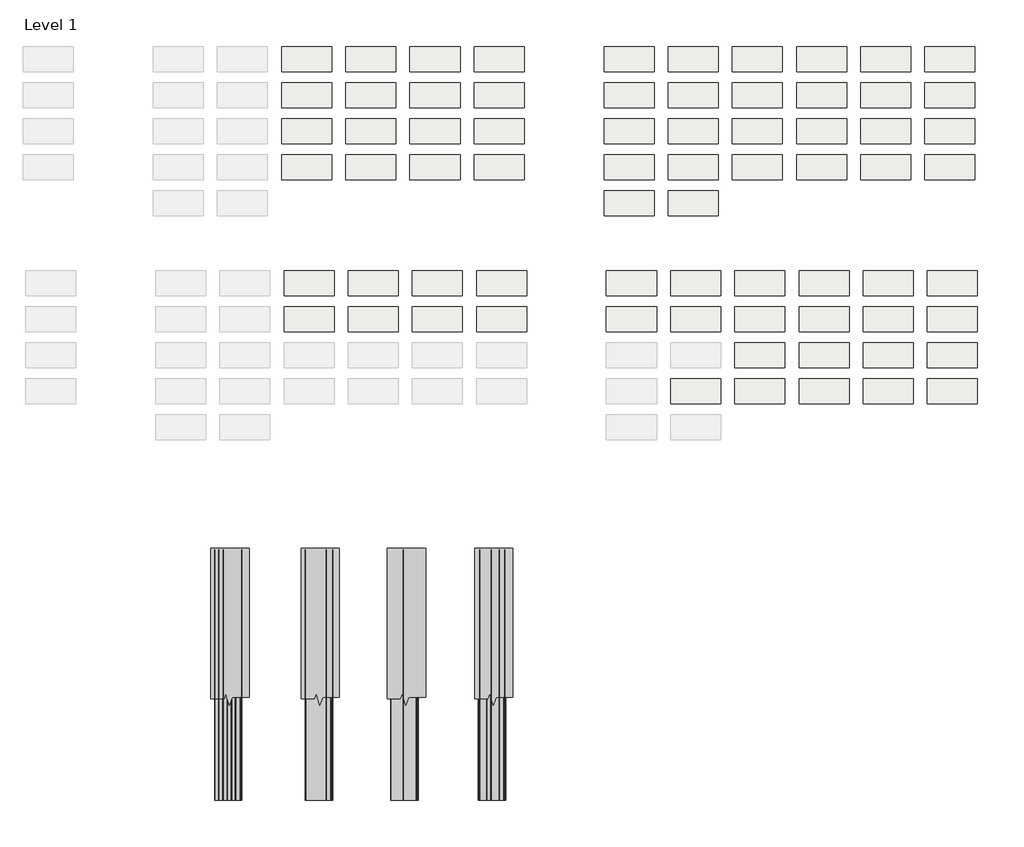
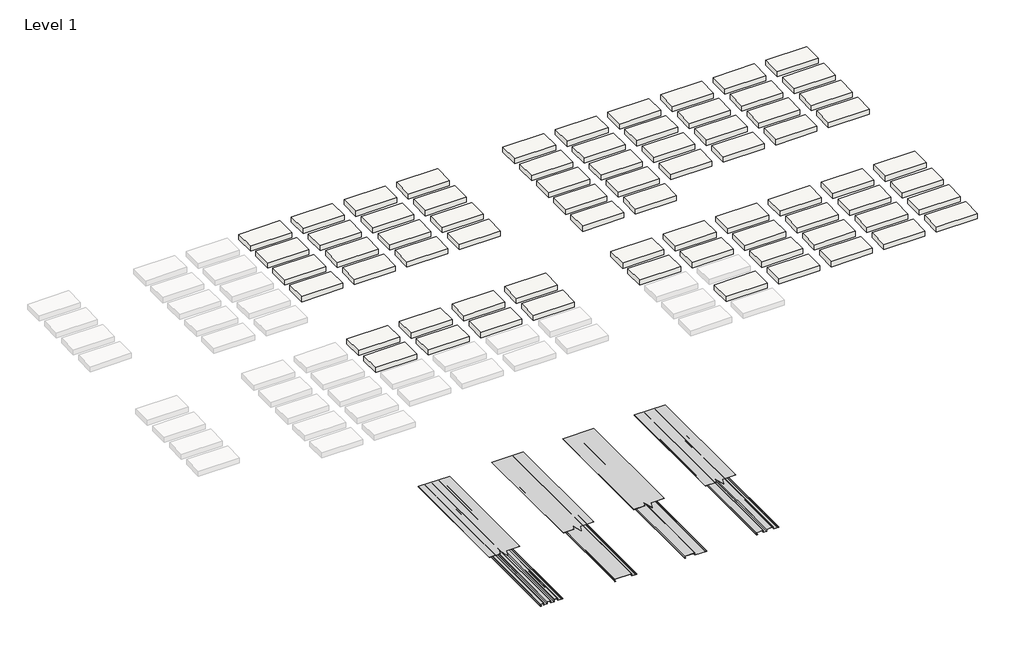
# One storey, part 3 of 3: 71 slabs, 8 proxies.
"""IFC4 building model written with IfcOpenShell, lengths in millimetres."""

from ifc_helpers import new_model, si_unit, frame, origin, place, context, project, spatial, polyline, outline, extrude, transform, mapped, element, save
from components import generic_models_ee5c945a, generic_models_c5291c93, generic_models_d0faf110, generic_models_5fbaab43, section_mask_section_mask_0c550b42

model = new_model("IFC4")

# Units and contexts
model_context = context("Model", 3, world=origin())
ifc_project = project(units=[si_unit("LENGTHUNIT", "METRE", prefix="MILLI")], contexts=[model_context])

# Site, building, storey
site = spatial("IfcSite", under=ifc_project)
building = spatial("IfcBuilding", under=site)
storey = spatial("IfcBuildingStorey", under=building, Name="Level 1", Elevation=0.0)

# Proxies
placement = place(None, origin())
generic_models_shape = generic_models_ee5c945a(model_context)
element("IfcBuildingElementProxy", 1, Name="Flex-Series_1.2FX20-12c_Panel_AEP_Span : 12\" Flex Series 1.2FX20-12c - 20GA", ObjectType="Flex-Series_1.2FX20-12c_Panel_AEP_Span : 12\" Flex Series 1.2FX20-12c - 20GA", at=placement, inside=storey, context=model_context, shape_type="MappedRepresentation", body=[
    mapped(generic_models_shape, transform((8796.572764, 1390.8314445, 0.0), x_axis=(1.0, 0.0, 0.0), y_axis=(0.0, 1.0, 0.0), z_axis=(0.0, 0.0, 1.0))),
])
generic_models_2_shape = generic_models_c5291c93(model_context)
element("IfcBuildingElementProxy", 2, Name="Flex-Series_1.2FX10-12c_Panel_AEP_Span : 12\" Flex Series 1.2FX10-12c - 20GA", ObjectType="Flex-Series_1.2FX10-12c_Panel_AEP_Span : 12\" Flex Series 1.2FX10-12c - 20GA", at=placement, inside=storey, context=model_context, shape_type="MappedRepresentation", body=[
    mapped(generic_models_2_shape, transform((7729.772764, 1390.8314445, 0.0), x_axis=(1.0, 0.0, 0.0), y_axis=(0.0, 1.0, 0.0), z_axis=(0.0, 0.0, 1.0))),
])
generic_models_3_shape = generic_models_d0faf110(model_context)
element("IfcBuildingElementProxy", 3, Name="Flex-Series_1.2FX30-12c_Panel_AEP_Span : 12\" Flex Series 1.2FX30-12c - 20GA", ObjectType="Flex-Series_1.2FX30-12c_Panel_AEP_Span : 12\" Flex Series 1.2FX30-12c - 20GA", at=placement, inside=storey, context=model_context, shape_type="MappedRepresentation", body=[
    mapped(generic_models_3_shape, transform((9863.372764, 1390.8314445, 0.0), x_axis=(1.0, 0.0, 0.0), y_axis=(0.0, 1.0, 0.0), z_axis=(0.0, 0.0, 1.0))),
])
generic_models_4_shape = generic_models_5fbaab43(model_context)
element("IfcBuildingElementProxy", 4, Name="Flex-Series_1.2FX40-12c_Panel_AEP_Span : 12\" Flex Series 1.2FX40-12c - 20GA", ObjectType="Flex-Series_1.2FX40-12c_Panel_AEP_Span : 12\" Flex Series 1.2FX40-12c - 20GA", at=placement, inside=storey, context=model_context, shape_type="MappedRepresentation", body=[
    mapped(generic_models_4_shape, transform((10930.172764, 1390.8314445, 0.0), x_axis=(1.0, 0.0, 0.0), y_axis=(0.0, 1.0, 0.0), z_axis=(0.0, 0.0, 1.0))),
])
section_mask_section_mask_shape = section_mask_section_mask_0c550b42(model_context)
element("IfcBuildingElementProxy", 5, Name="Section Mask : Section Mask", ObjectType="Section Mask : Section Mask", at=placement, inside=storey, context=model_context, shape_type="MappedRepresentation", body=[
    mapped(section_mask_section_mask_shape, transform((-344.1665381, -1308.0504409, -11.1125), x_axis=(1.0, 0.0, 0.0), y_axis=(0.0, 1.0, 0.0), z_axis=(0.0, 0.0, 1.0))),
])
element("IfcBuildingElementProxy", 6, Name="Section Mask1 : Section Mask", ObjectType="Section Mask1 : Section Mask", at=placement, inside=storey, context=model_context, shape_type="MappedRepresentation", body=[
    mapped(section_mask_section_mask_shape, transform((753.2413884, -1308.0504409, -11.1125), x_axis=(1.0, 0.0, 0.0), y_axis=(0.0, 1.0, 0.0), z_axis=(0.0, 0.0, 1.0))),
])
element("IfcBuildingElementProxy", 7, Name="Section Mask2 : Section Mask", ObjectType="Section Mask2 : Section Mask", at=placement, inside=storey, context=model_context, shape_type="MappedRepresentation", body=[
    mapped(section_mask_section_mask_shape, transform((1802.2157814, -1308.0504409, -11.1125), x_axis=(1.0, 0.0, 0.0), y_axis=(0.0, 1.0, 0.0), z_axis=(0.0, 0.0, 1.0))),
])
element("IfcBuildingElementProxy", 8, Name="Section Mask3 : Section Mask", ObjectType="Section Mask3 : Section Mask", at=placement, inside=storey, context=model_context, shape_type="MappedRepresentation", body=[
    mapped(section_mask_section_mask_shape, transform((2865.3756625, -1308.0504409, -11.1125), x_axis=(1.0, 0.0, 0.0), y_axis=(0.0, 1.0, 0.0), z_axis=(0.0, 0.0, 1.0))),
])

# Slabs
element("IfcSlab", 9, ObjectType="AEP Span Color Sample", at=placement, inside=storey, context=model_context, shape_type="SweptSolid", body=[
    extrude(outline(polyline([(8989.0339225, 7212.0976846), (8379.4339225, 7212.0976846), (8379.4339225, 7516.8976846), (8989.0339225, 7516.8976846), (8989.0339225, 7212.0976846)])), frame((0.0, 0.0, -79.375), z_axis=(0.0, 0.0, 1.0), x_axis=(1.0, 0.0, 0.0)), (0.0, 0.0, 1.0), 79.375),
])
element("IfcSlab", 10, ObjectType="AEP Span Color Sample", at=placement, inside=storey, context=model_context, shape_type="SweptSolid", body=[
    extrude(outline(polyline([(9770.0839225, 7212.0976846), (9160.4839225, 7212.0976846), (9160.4839225, 7516.8976846), (9770.0839225, 7516.8976846), (9770.0839225, 7212.0976846)])), frame((0.0, 0.0, -79.375), z_axis=(0.0, 0.0, 1.0), x_axis=(1.0, 0.0, 0.0)), (0.0, 0.0, 1.0), 79.375),
])
element("IfcSlab", 11, ObjectType="AEP Span Color Sample", at=placement, inside=storey, context=model_context, shape_type="SweptSolid", body=[
    extrude(outline(polyline([(10551.1339225, 7212.0976846), (9941.5339225, 7212.0976846), (9941.5339225, 7516.8976846), (10551.1339225, 7516.8976846), (10551.1339225, 7212.0976846)])), frame((0.0, 0.0, -79.375), z_axis=(0.0, 0.0, 1.0), x_axis=(1.0, 0.0, 0.0)), (0.0, 0.0, 1.0), 79.375),
])
element("IfcSlab", 12, ObjectType="AEP Span Color Sample", at=placement, inside=storey, context=model_context, shape_type="SweptSolid", body=[
    extrude(outline(polyline([(11332.1839225, 7212.0976846), (10722.5839225, 7212.0976846), (10722.5839225, 7516.8976846), (11332.1839225, 7516.8976846), (11332.1839225, 7212.0976846)])), frame((0.0, 0.0, -79.375), z_axis=(0.0, 0.0, 1.0), x_axis=(1.0, 0.0, 0.0)), (0.0, 0.0, 1.0), 79.375),
])
element("IfcSlab", 13, ObjectType="AEP Span Color Sample", at=placement, inside=storey, context=model_context, shape_type="SweptSolid", body=[
    extrude(outline(polyline([(8989.0339225, 6773.9476846), (8379.4339225, 6773.9476846), (8379.4339225, 7078.7476846), (8989.0339225, 7078.7476846), (8989.0339225, 6773.9476846)])), frame((0.0, 0.0, -79.375), z_axis=(0.0, 0.0, 1.0), x_axis=(1.0, 0.0, 0.0)), (0.0, 0.0, 1.0), 79.375),
])
element("IfcSlab", 14, ObjectType="AEP Span Color Sample", at=placement, inside=storey, context=model_context, shape_type="SweptSolid", body=[
    extrude(outline(polyline([(9770.0839225, 6773.9476846), (9160.4839225, 6773.9476846), (9160.4839225, 7078.7476846), (9770.0839225, 7078.7476846), (9770.0839225, 6773.9476846)])), frame((0.0, 0.0, -79.375), z_axis=(0.0, 0.0, 1.0), x_axis=(1.0, 0.0, 0.0)), (0.0, 0.0, 1.0), 79.375),
])
element("IfcSlab", 15, ObjectType="AEP Span Color Sample", at=placement, inside=storey, context=model_context, shape_type="SweptSolid", body=[
    extrude(outline(polyline([(10551.1339225, 6773.9476846), (9941.5339225, 6773.9476846), (9941.5339225, 7078.7476846), (10551.1339225, 7078.7476846), (10551.1339225, 6773.9476846)])), frame((0.0, 0.0, -79.375), z_axis=(0.0, 0.0, 1.0), x_axis=(1.0, 0.0, 0.0)), (0.0, 0.0, 1.0), 79.375),
])
element("IfcSlab", 16, ObjectType="AEP Span Color Sample", at=placement, inside=storey, context=model_context, shape_type="SweptSolid", body=[
    extrude(outline(polyline([(11332.1839225, 6773.9476846), (10722.5839225, 6773.9476846), (10722.5839225, 7078.7476846), (11332.1839225, 7078.7476846), (11332.1839225, 6773.9476846)])), frame((0.0, 0.0, -79.375), z_axis=(0.0, 0.0, 1.0), x_axis=(1.0, 0.0, 0.0)), (0.0, 0.0, 1.0), 79.375),
])
element("IfcSlab", 17, ObjectType="AEP Span Color Sample", at=placement, inside=storey, context=model_context, shape_type="SweptSolid", body=[
    extrude(outline(polyline([(8989.0339225, 6335.7976846), (8379.4339225, 6335.7976846), (8379.4339225, 6640.5976846), (8989.0339225, 6640.5976846), (8989.0339225, 6335.7976846)])), frame((0.0, 0.0, -79.375), z_axis=(0.0, 0.0, 1.0), x_axis=(1.0, 0.0, 0.0)), (0.0, 0.0, 1.0), 79.375),
])
element("IfcSlab", 18, ObjectType="AEP Span Color Sample", at=placement, inside=storey, context=model_context, shape_type="SweptSolid", body=[
    extrude(outline(polyline([(9770.0839225, 6335.7976846), (9160.4839225, 6335.7976846), (9160.4839225, 6640.5976846), (9770.0839225, 6640.5976846), (9770.0839225, 6335.7976846)])), frame((0.0, 0.0, -79.375), z_axis=(0.0, 0.0, 1.0), x_axis=(1.0, 0.0, 0.0)), (0.0, 0.0, 1.0), 79.375),
])
element("IfcSlab", 19, ObjectType="AEP Span Color Sample", at=placement, inside=storey, context=model_context, shape_type="SweptSolid", body=[
    extrude(outline(polyline([(10551.1339225, 6335.7976846), (9941.5339225, 6335.7976846), (9941.5339225, 6640.5976846), (10551.1339225, 6640.5976846), (10551.1339225, 6335.7976846)])), frame((0.0, 0.0, -79.375), z_axis=(0.0, 0.0, 1.0), x_axis=(1.0, 0.0, 0.0)), (0.0, 0.0, 1.0), 79.375),
])
element("IfcSlab", 20, ObjectType="AEP Span Color Sample", at=placement, inside=storey, context=model_context, shape_type="SweptSolid", body=[
    extrude(outline(polyline([(11332.1839225, 6335.7976846), (10722.5839225, 6335.7976846), (10722.5839225, 6640.5976846), (11332.1839225, 6640.5976846), (11332.1839225, 6335.7976846)])), frame((0.0, 0.0, -79.375), z_axis=(0.0, 0.0, 1.0), x_axis=(1.0, 0.0, 0.0)), (0.0, 0.0, 1.0), 79.375),
])
element("IfcSlab", 21, ObjectType="AEP Span Color Sample", at=placement, inside=storey, context=model_context, shape_type="SweptSolid", body=[
    extrude(outline(polyline([(8989.0339225, 5897.6476846), (8379.4339225, 5897.6476846), (8379.4339225, 6202.4476846), (8989.0339225, 6202.4476846), (8989.0339225, 5897.6476846)])), frame((0.0, 0.0, -79.375), z_axis=(0.0, 0.0, 1.0), x_axis=(1.0, 0.0, 0.0)), (0.0, 0.0, 1.0), 79.375),
])
element("IfcSlab", 22, ObjectType="AEP Span Color Sample", at=placement, inside=storey, context=model_context, shape_type="SweptSolid", body=[
    extrude(outline(polyline([(9770.0839225, 5897.6476846), (9160.4839225, 5897.6476846), (9160.4839225, 6202.4476846), (9770.0839225, 6202.4476846), (9770.0839225, 5897.6476846)])), frame((0.0, 0.0, -79.375), z_axis=(0.0, 0.0, 1.0), x_axis=(1.0, 0.0, 0.0)), (0.0, 0.0, 1.0), 79.375),
])
element("IfcSlab", 23, ObjectType="AEP Span Color Sample", at=placement, inside=storey, context=model_context, shape_type="SweptSolid", body=[
    extrude(outline(polyline([(10551.1339225, 5897.6476846), (9941.5339225, 5897.6476846), (9941.5339225, 6202.4476846), (10551.1339225, 6202.4476846), (10551.1339225, 5897.6476846)])), frame((0.0, 0.0, -79.375), z_axis=(0.0, 0.0, 1.0), x_axis=(1.0, 0.0, 0.0)), (0.0, 0.0, 1.0), 79.375),
])
element("IfcSlab", 24, ObjectType="AEP Span Color Sample", at=placement, inside=storey, context=model_context, shape_type="SweptSolid", body=[
    extrude(outline(polyline([(11332.1839225, 5897.6476846), (10722.5839225, 5897.6476846), (10722.5839225, 6202.4476846), (11332.1839225, 6202.4476846), (11332.1839225, 5897.6476846)])), frame((0.0, 0.0, -79.375), z_axis=(0.0, 0.0, 1.0), x_axis=(1.0, 0.0, 0.0)), (0.0, 0.0, 1.0), 79.375),
])
element("IfcSlab", 25, ObjectType="AEP Span Color Sample", at=placement, inside=storey, context=model_context, shape_type="SweptSolid", body=[
    extrude(outline(polyline([(12913.3339225, 7212.0976846), (12303.7339225, 7212.0976846), (12303.7339225, 7516.8976846), (12913.3339225, 7516.8976846), (12913.3339225, 7212.0976846)])), frame((0.0, 0.0, -79.375), z_axis=(0.0, 0.0, 1.0), x_axis=(1.0, 0.0, 0.0)), (0.0, 0.0, 1.0), 79.375),
])
element("IfcSlab", 26, ObjectType="AEP Span Color Sample", at=placement, inside=storey, context=model_context, shape_type="SweptSolid", body=[
    extrude(outline(polyline([(13694.3839225, 7212.0976846), (13084.7839225, 7212.0976846), (13084.7839225, 7516.8976846), (13694.3839225, 7516.8976846), (13694.3839225, 7212.0976846)])), frame((0.0, 0.0, -79.375), z_axis=(0.0, 0.0, 1.0), x_axis=(1.0, 0.0, 0.0)), (0.0, 0.0, 1.0), 79.375),
])
element("IfcSlab", 27, ObjectType="AEP Span Color Sample", at=placement, inside=storey, context=model_context, shape_type="SweptSolid", body=[
    extrude(outline(polyline([(14475.4339225, 7212.0976846), (13865.8339225, 7212.0976846), (13865.8339225, 7516.8976846), (14475.4339225, 7516.8976846), (14475.4339225, 7212.0976846)])), frame((0.0, 0.0, -79.375), z_axis=(0.0, 0.0, 1.0), x_axis=(1.0, 0.0, 0.0)), (0.0, 0.0, 1.0), 79.375),
])
element("IfcSlab", 28, ObjectType="AEP Span Color Sample", at=placement, inside=storey, context=model_context, shape_type="SweptSolid", body=[
    extrude(outline(polyline([(15256.4839225, 7212.0976846), (14646.8839225, 7212.0976846), (14646.8839225, 7516.8976846), (15256.4839225, 7516.8976846), (15256.4839225, 7212.0976846)])), frame((0.0, 0.0, -79.375), z_axis=(0.0, 0.0, 1.0), x_axis=(1.0, 0.0, 0.0)), (0.0, 0.0, 1.0), 79.375),
])
element("IfcSlab", 29, ObjectType="AEP Span Color Sample", at=placement, inside=storey, context=model_context, shape_type="SweptSolid", body=[
    extrude(outline(polyline([(16037.5339225, 7212.0976846), (15427.9339225, 7212.0976846), (15427.9339225, 7516.8976846), (16037.5339225, 7516.8976846), (16037.5339225, 7212.0976846)])), frame((0.0, 0.0, -79.375), z_axis=(0.0, 0.0, 1.0), x_axis=(1.0, 0.0, 0.0)), (0.0, 0.0, 1.0), 79.375),
])
element("IfcSlab", 30, ObjectType="AEP Span Color Sample", at=placement, inside=storey, context=model_context, shape_type="SweptSolid", body=[
    extrude(outline(polyline([(16818.5839225, 7212.0976846), (16208.9839225, 7212.0976846), (16208.9839225, 7516.8976846), (16818.5839225, 7516.8976846), (16818.5839225, 7212.0976846)])), frame((0.0, 0.0, -79.375), z_axis=(0.0, 0.0, 1.0), x_axis=(1.0, 0.0, 0.0)), (0.0, 0.0, 1.0), 79.375),
])
element("IfcSlab", 31, ObjectType="AEP Span Color Sample", at=placement, inside=storey, context=model_context, shape_type="SweptSolid", body=[
    extrude(outline(polyline([(12913.3339225, 6773.9476846), (12303.7339225, 6773.9476846), (12303.7339225, 7078.7476846), (12913.3339225, 7078.7476846), (12913.3339225, 6773.9476846)])), frame((0.0, 0.0, -79.375), z_axis=(0.0, 0.0, 1.0), x_axis=(1.0, 0.0, 0.0)), (0.0, 0.0, 1.0), 79.375),
])
element("IfcSlab", 32, ObjectType="AEP Span Color Sample", at=placement, inside=storey, context=model_context, shape_type="SweptSolid", body=[
    extrude(outline(polyline([(13694.3839225, 6773.9476846), (13084.7839225, 6773.9476846), (13084.7839225, 7078.7476846), (13694.3839225, 7078.7476846), (13694.3839225, 6773.9476846)])), frame((0.0, 0.0, -79.375), z_axis=(0.0, 0.0, 1.0), x_axis=(1.0, 0.0, 0.0)), (0.0, 0.0, 1.0), 79.375),
])
element("IfcSlab", 33, ObjectType="AEP Span Color Sample", at=placement, inside=storey, context=model_context, shape_type="SweptSolid", body=[
    extrude(outline(polyline([(14475.4339225, 6773.9476846), (13865.8339225, 6773.9476846), (13865.8339225, 7078.7476846), (14475.4339225, 7078.7476846), (14475.4339225, 6773.9476846)])), frame((0.0, 0.0, -79.375), z_axis=(0.0, 0.0, 1.0), x_axis=(1.0, 0.0, 0.0)), (0.0, 0.0, 1.0), 79.375),
])
element("IfcSlab", 34, ObjectType="AEP Span Color Sample", at=placement, inside=storey, context=model_context, shape_type="SweptSolid", body=[
    extrude(outline(polyline([(15256.4839225, 6773.9476846), (14646.8839225, 6773.9476846), (14646.8839225, 7078.7476846), (15256.4839225, 7078.7476846), (15256.4839225, 6773.9476846)])), frame((0.0, 0.0, -79.375), z_axis=(0.0, 0.0, 1.0), x_axis=(1.0, 0.0, 0.0)), (0.0, 0.0, 1.0), 79.375),
])
element("IfcSlab", 35, ObjectType="AEP Span Color Sample", at=placement, inside=storey, context=model_context, shape_type="SweptSolid", body=[
    extrude(outline(polyline([(16037.5339225, 6773.9476846), (15427.9339225, 6773.9476846), (15427.9339225, 7078.7476846), (16037.5339225, 7078.7476846), (16037.5339225, 6773.9476846)])), frame((0.0, 0.0, -79.375), z_axis=(0.0, 0.0, 1.0), x_axis=(1.0, 0.0, 0.0)), (0.0, 0.0, 1.0), 79.375),
])
element("IfcSlab", 36, ObjectType="AEP Span Color Sample", at=placement, inside=storey, context=model_context, shape_type="SweptSolid", body=[
    extrude(outline(polyline([(16818.5839225, 6773.9476846), (16208.9839225, 6773.9476846), (16208.9839225, 7078.7476846), (16818.5839225, 7078.7476846), (16818.5839225, 6773.9476846)])), frame((0.0, 0.0, -79.375), z_axis=(0.0, 0.0, 1.0), x_axis=(1.0, 0.0, 0.0)), (0.0, 0.0, 1.0), 79.375),
])
element("IfcSlab", 37, ObjectType="AEP Span Color Sample", at=placement, inside=storey, context=model_context, shape_type="SweptSolid", body=[
    extrude(outline(polyline([(12913.3339225, 6335.7976846), (12303.7339225, 6335.7976846), (12303.7339225, 6640.5976846), (12913.3339225, 6640.5976846), (12913.3339225, 6335.7976846)])), frame((0.0, 0.0, -79.375), z_axis=(0.0, 0.0, 1.0), x_axis=(1.0, 0.0, 0.0)), (0.0, 0.0, 1.0), 79.375),
])
element("IfcSlab", 38, ObjectType="AEP Span Color Sample", at=placement, inside=storey, context=model_context, shape_type="SweptSolid", body=[
    extrude(outline(polyline([(13694.3839225, 6335.7976846), (13084.7839225, 6335.7976846), (13084.7839225, 6640.5976846), (13694.3839225, 6640.5976846), (13694.3839225, 6335.7976846)])), frame((0.0, 0.0, -79.375), z_axis=(0.0, 0.0, 1.0), x_axis=(1.0, 0.0, 0.0)), (0.0, 0.0, 1.0), 79.375),
])
element("IfcSlab", 39, ObjectType="AEP Span Color Sample", at=placement, inside=storey, context=model_context, shape_type="SweptSolid", body=[
    extrude(outline(polyline([(14475.4339225, 6335.7976846), (13865.8339225, 6335.7976846), (13865.8339225, 6640.5976846), (14475.4339225, 6640.5976846), (14475.4339225, 6335.7976846)])), frame((0.0, 0.0, -79.375), z_axis=(0.0, 0.0, 1.0), x_axis=(1.0, 0.0, 0.0)), (0.0, 0.0, 1.0), 79.375),
])
element("IfcSlab", 40, ObjectType="AEP Span Color Sample", at=placement, inside=storey, context=model_context, shape_type="SweptSolid", body=[
    extrude(outline(polyline([(15256.4839225, 6335.7976846), (14646.8839225, 6335.7976846), (14646.8839225, 6640.5976846), (15256.4839225, 6640.5976846), (15256.4839225, 6335.7976846)])), frame((0.0, 0.0, -79.375), z_axis=(0.0, 0.0, 1.0), x_axis=(1.0, 0.0, 0.0)), (0.0, 0.0, 1.0), 79.375),
])
element("IfcSlab", 41, ObjectType="AEP Span Color Sample", at=placement, inside=storey, context=model_context, shape_type="SweptSolid", body=[
    extrude(outline(polyline([(16037.5339225, 6335.7976846), (15427.9339225, 6335.7976846), (15427.9339225, 6640.5976846), (16037.5339225, 6640.5976846), (16037.5339225, 6335.7976846)])), frame((0.0, 0.0, -79.375), z_axis=(0.0, 0.0, 1.0), x_axis=(1.0, 0.0, 0.0)), (0.0, 0.0, 1.0), 79.375),
])
element("IfcSlab", 42, ObjectType="AEP Span Color Sample", at=placement, inside=storey, context=model_context, shape_type="SweptSolid", body=[
    extrude(outline(polyline([(16818.5839225, 6335.7976846), (16208.9839225, 6335.7976846), (16208.9839225, 6640.5976846), (16818.5839225, 6640.5976846), (16818.5839225, 6335.7976846)])), frame((0.0, 0.0, -79.375), z_axis=(0.0, 0.0, 1.0), x_axis=(1.0, 0.0, 0.0)), (0.0, 0.0, 1.0), 79.375),
])
element("IfcSlab", 43, ObjectType="AEP Span Color Sample", at=placement, inside=storey, context=model_context, shape_type="SweptSolid", body=[
    extrude(outline(polyline([(12913.3339225, 5897.6476846), (12303.7339225, 5897.6476846), (12303.7339225, 6202.4476846), (12913.3339225, 6202.4476846), (12913.3339225, 5897.6476846)])), frame((0.0, 0.0, -79.375), z_axis=(0.0, 0.0, 1.0), x_axis=(1.0, 0.0, 0.0)), (0.0, 0.0, 1.0), 79.375),
])
element("IfcSlab", 44, ObjectType="AEP Span Color Sample", at=placement, inside=storey, context=model_context, shape_type="SweptSolid", body=[
    extrude(outline(polyline([(13694.3839225, 5897.6476846), (13084.7839225, 5897.6476846), (13084.7839225, 6202.4476846), (13694.3839225, 6202.4476846), (13694.3839225, 5897.6476846)])), frame((0.0, 0.0, -79.375), z_axis=(0.0, 0.0, 1.0), x_axis=(1.0, 0.0, 0.0)), (0.0, 0.0, 1.0), 79.375),
])
element("IfcSlab", 45, ObjectType="AEP Span Color Sample", at=placement, inside=storey, context=model_context, shape_type="SweptSolid", body=[
    extrude(outline(polyline([(14475.4339225, 5897.6476846), (13865.8339225, 5897.6476846), (13865.8339225, 6202.4476846), (14475.4339225, 6202.4476846), (14475.4339225, 5897.6476846)])), frame((0.0, 0.0, -79.375), z_axis=(0.0, 0.0, 1.0), x_axis=(1.0, 0.0, 0.0)), (0.0, 0.0, 1.0), 79.375),
])
element("IfcSlab", 46, ObjectType="AEP Span Color Sample", at=placement, inside=storey, context=model_context, shape_type="SweptSolid", body=[
    extrude(outline(polyline([(15256.4839225, 5897.6476846), (14646.8839225, 5897.6476846), (14646.8839225, 6202.4476846), (15256.4839225, 6202.4476846), (15256.4839225, 5897.6476846)])), frame((0.0, 0.0, -79.375), z_axis=(0.0, 0.0, 1.0), x_axis=(1.0, 0.0, 0.0)), (0.0, 0.0, 1.0), 79.375),
])
element("IfcSlab", 47, ObjectType="AEP Span Color Sample", at=placement, inside=storey, context=model_context, shape_type="SweptSolid", body=[
    extrude(outline(polyline([(16037.5339225, 5897.6476846), (15427.9339225, 5897.6476846), (15427.9339225, 6202.4476846), (16037.5339225, 6202.4476846), (16037.5339225, 5897.6476846)])), frame((0.0, 0.0, -79.375), z_axis=(0.0, 0.0, 1.0), x_axis=(1.0, 0.0, 0.0)), (0.0, 0.0, 1.0), 79.375),
])
element("IfcSlab", 48, ObjectType="AEP Span Color Sample", at=placement, inside=storey, context=model_context, shape_type="SweptSolid", body=[
    extrude(outline(polyline([(16818.5839225, 5897.6476846), (16208.9839225, 5897.6476846), (16208.9839225, 6202.4476846), (16818.5839225, 6202.4476846), (16818.5839225, 5897.6476846)])), frame((0.0, 0.0, -79.375), z_axis=(0.0, 0.0, 1.0), x_axis=(1.0, 0.0, 0.0)), (0.0, 0.0, 1.0), 79.375),
])
element("IfcSlab", 49, ObjectType="AEP Span Color Sample", at=placement, inside=storey, context=model_context, shape_type="SweptSolid", body=[
    extrude(outline(polyline([(12913.3339225, 5459.4976846), (12303.7339225, 5459.4976846), (12303.7339225, 5764.2976846), (12913.3339225, 5764.2976846), (12913.3339225, 5459.4976846)])), frame((0.0, 0.0, -79.375), z_axis=(0.0, 0.0, 1.0), x_axis=(1.0, 0.0, 0.0)), (0.0, 0.0, 1.0), 79.375),
])
element("IfcSlab", 50, ObjectType="AEP Span Color Sample", at=placement, inside=storey, context=model_context, shape_type="SweptSolid", body=[
    extrude(outline(polyline([(13694.3839225, 5459.4976846), (13084.7839225, 5459.4976846), (13084.7839225, 5764.2976846), (13694.3839225, 5764.2976846), (13694.3839225, 5459.4976846)])), frame((0.0, 0.0, -79.375), z_axis=(0.0, 0.0, 1.0), x_axis=(1.0, 0.0, 0.0)), (0.0, 0.0, 1.0), 79.375),
])
element("IfcSlab", 51, ObjectType="AEP Span Color Sample", at=placement, inside=storey, context=model_context, shape_type="SweptSolid", body=[
    extrude(outline(polyline([(9019.2268399, 4483.7993148), (8409.6268399, 4483.7993148), (8409.6268399, 4788.5993148), (9019.2268399, 4788.5993148), (9019.2268399, 4483.7993148)])), frame((0.0, 0.0, -79.375), z_axis=(0.0, 0.0, 1.0), x_axis=(1.0, 0.0, 0.0)), (0.0, 0.0, 1.0), 79.375),
])
element("IfcSlab", 52, ObjectType="AEP Span Color Sample", at=placement, inside=storey, context=model_context, shape_type="SweptSolid", body=[
    extrude(outline(polyline([(9800.2768399, 4483.7993148), (9190.6768399, 4483.7993148), (9190.6768399, 4788.5993148), (9800.2768399, 4788.5993148), (9800.2768399, 4483.7993148)])), frame((0.0, 0.0, -79.375), z_axis=(0.0, 0.0, 1.0), x_axis=(1.0, 0.0, 0.0)), (0.0, 0.0, 1.0), 79.375),
])
element("IfcSlab", 53, ObjectType="AEP Span Color Sample", at=placement, inside=storey, context=model_context, shape_type="SweptSolid", body=[
    extrude(outline(polyline([(10581.3268399, 4483.7993148), (9971.7268399, 4483.7993148), (9971.7268399, 4788.5993148), (10581.3268399, 4788.5993148), (10581.3268399, 4483.7993148)])), frame((0.0, 0.0, -79.375), z_axis=(0.0, 0.0, 1.0), x_axis=(1.0, 0.0, 0.0)), (0.0, 0.0, 1.0), 79.375),
])
element("IfcSlab", 54, ObjectType="AEP Span Color Sample", at=placement, inside=storey, context=model_context, shape_type="SweptSolid", body=[
    extrude(outline(polyline([(11362.3768399, 4483.7993148), (10752.7768399, 4483.7993148), (10752.7768399, 4788.5993148), (11362.3768399, 4788.5993148), (11362.3768399, 4483.7993148)])), frame((0.0, 0.0, -79.375), z_axis=(0.0, 0.0, 1.0), x_axis=(1.0, 0.0, 0.0)), (0.0, 0.0, 1.0), 79.375),
])
element("IfcSlab", 55, ObjectType="AEP Span Color Sample", at=placement, inside=storey, context=model_context, shape_type="SweptSolid", body=[
    extrude(outline(polyline([(9019.2268399, 4045.6493148), (8409.6268399, 4045.6493148), (8409.6268399, 4350.4493148), (9019.2268399, 4350.4493148), (9019.2268399, 4045.6493148)])), frame((0.0, 0.0, -79.375), z_axis=(0.0, 0.0, 1.0), x_axis=(1.0, 0.0, 0.0)), (0.0, 0.0, 1.0), 79.375),
])
element("IfcSlab", 56, ObjectType="AEP Span Color Sample", at=placement, inside=storey, context=model_context, shape_type="SweptSolid", body=[
    extrude(outline(polyline([(9800.2768399, 4045.6493148), (9190.6768399, 4045.6493148), (9190.6768399, 4350.4493148), (9800.2768399, 4350.4493148), (9800.2768399, 4045.6493148)])), frame((0.0, 0.0, -79.375), z_axis=(0.0, 0.0, 1.0), x_axis=(1.0, 0.0, 0.0)), (0.0, 0.0, 1.0), 79.375),
])
element("IfcSlab", 57, ObjectType="AEP Span Color Sample", at=placement, inside=storey, context=model_context, shape_type="SweptSolid", body=[
    extrude(outline(polyline([(10581.3268399, 4045.6493148), (9971.7268399, 4045.6493148), (9971.7268399, 4350.4493148), (10581.3268399, 4350.4493148), (10581.3268399, 4045.6493148)])), frame((0.0, 0.0, -79.375), z_axis=(0.0, 0.0, 1.0), x_axis=(1.0, 0.0, 0.0)), (0.0, 0.0, 1.0), 79.375),
])
element("IfcSlab", 58, ObjectType="AEP Span Color Sample", at=placement, inside=storey, context=model_context, shape_type="SweptSolid", body=[
    extrude(outline(polyline([(11362.3768399, 4045.6493148), (10752.7768399, 4045.6493148), (10752.7768399, 4350.4493148), (11362.3768399, 4350.4493148), (11362.3768399, 4045.6493148)])), frame((0.0, 0.0, -79.375), z_axis=(0.0, 0.0, 1.0), x_axis=(1.0, 0.0, 0.0)), (0.0, 0.0, 1.0), 79.375),
])
element("IfcSlab", 59, ObjectType="AEP Span Color Sample", at=placement, inside=storey, context=model_context, shape_type="SweptSolid", body=[
    extrude(outline(polyline([(12943.5268399, 4483.7993148), (12333.9268399, 4483.7993148), (12333.9268399, 4788.5993148), (12943.5268399, 4788.5993148), (12943.5268399, 4483.7993148)])), frame((0.0, 0.0, -79.375), z_axis=(0.0, 0.0, 1.0), x_axis=(1.0, 0.0, 0.0)), (0.0, 0.0, 1.0), 79.375),
])
element("IfcSlab", 60, ObjectType="AEP Span Color Sample", at=placement, inside=storey, context=model_context, shape_type="SweptSolid", body=[
    extrude(outline(polyline([(13724.5768399, 4483.7993148), (13114.9768399, 4483.7993148), (13114.9768399, 4788.5993148), (13724.5768399, 4788.5993148), (13724.5768399, 4483.7993148)])), frame((0.0, 0.0, -79.375), z_axis=(0.0, 0.0, 1.0), x_axis=(1.0, 0.0, 0.0)), (0.0, 0.0, 1.0), 79.375),
])
element("IfcSlab", 61, ObjectType="AEP Span Color Sample", at=placement, inside=storey, context=model_context, shape_type="SweptSolid", body=[
    extrude(outline(polyline([(14505.6268399, 4483.7993148), (13896.0268399, 4483.7993148), (13896.0268399, 4788.5993148), (14505.6268399, 4788.5993148), (14505.6268399, 4483.7993148)])), frame((0.0, 0.0, -79.375), z_axis=(0.0, 0.0, 1.0), x_axis=(1.0, 0.0, 0.0)), (0.0, 0.0, 1.0), 79.375),
])
element("IfcSlab", 62, ObjectType="AEP Span Color Sample", at=placement, inside=storey, context=model_context, shape_type="SweptSolid", body=[
    extrude(outline(polyline([(15286.6768399, 4483.7993148), (14677.0768399, 4483.7993148), (14677.0768399, 4788.5993148), (15286.6768399, 4788.5993148), (15286.6768399, 4483.7993148)])), frame((0.0, 0.0, -79.375), z_axis=(0.0, 0.0, 1.0), x_axis=(1.0, 0.0, 0.0)), (0.0, 0.0, 1.0), 79.375),
])
element("IfcSlab", 63, ObjectType="AEP Span Color Sample", at=placement, inside=storey, context=model_context, shape_type="SweptSolid", body=[
    extrude(outline(polyline([(16067.7268399, 4483.7993148), (15458.1268399, 4483.7993148), (15458.1268399, 4788.5993148), (16067.7268399, 4788.5993148), (16067.7268399, 4483.7993148)])), frame((0.0, 0.0, -79.375), z_axis=(0.0, 0.0, 1.0), x_axis=(1.0, 0.0, 0.0)), (0.0, 0.0, 1.0), 79.375),
])
element("IfcSlab", 64, ObjectType="AEP Span Color Sample", at=placement, inside=storey, context=model_context, shape_type="SweptSolid", body=[
    extrude(outline(polyline([(16848.7768399, 4483.7993148), (16239.1768399, 4483.7993148), (16239.1768399, 4788.5993148), (16848.7768399, 4788.5993148), (16848.7768399, 4483.7993148)])), frame((0.0, 0.0, -79.375), z_axis=(0.0, 0.0, 1.0), x_axis=(1.0, 0.0, 0.0)), (0.0, 0.0, 1.0), 79.375),
])
element("IfcSlab", 65, ObjectType="AEP Span Color Sample", at=placement, inside=storey, context=model_context, shape_type="SweptSolid", body=[
    extrude(outline(polyline([(12943.5268399, 4045.6493148), (12333.9268399, 4045.6493148), (12333.9268399, 4350.4493148), (12943.5268399, 4350.4493148), (12943.5268399, 4045.6493148)])), frame((0.0, 0.0, -79.375), z_axis=(0.0, 0.0, 1.0), x_axis=(1.0, 0.0, 0.0)), (0.0, 0.0, 1.0), 79.375),
])
element("IfcSlab", 66, ObjectType="AEP Span Color Sample", at=placement, inside=storey, context=model_context, shape_type="SweptSolid", body=[
    extrude(outline(polyline([(13724.5768399, 4045.6493148), (13114.9768399, 4045.6493148), (13114.9768399, 4350.4493148), (13724.5768399, 4350.4493148), (13724.5768399, 4045.6493148)])), frame((0.0, 0.0, -79.375), z_axis=(0.0, 0.0, 1.0), x_axis=(1.0, 0.0, 0.0)), (0.0, 0.0, 1.0), 79.375),
])
element("IfcSlab", 67, ObjectType="AEP Span Color Sample", at=placement, inside=storey, context=model_context, shape_type="SweptSolid", body=[
    extrude(outline(polyline([(14505.6268399, 4045.6493148), (13896.0268399, 4045.6493148), (13896.0268399, 4350.4493148), (14505.6268399, 4350.4493148), (14505.6268399, 4045.6493148)])), frame((0.0, 0.0, -79.375), z_axis=(0.0, 0.0, 1.0), x_axis=(1.0, 0.0, 0.0)), (0.0, 0.0, 1.0), 79.375),
])
element("IfcSlab", 68, ObjectType="AEP Span Color Sample", at=placement, inside=storey, context=model_context, shape_type="SweptSolid", body=[
    extrude(outline(polyline([(15286.6768399, 4045.6493148), (14677.0768399, 4045.6493148), (14677.0768399, 4350.4493148), (15286.6768399, 4350.4493148), (15286.6768399, 4045.6493148)])), frame((0.0, 0.0, -79.375), z_axis=(0.0, 0.0, 1.0), x_axis=(1.0, 0.0, 0.0)), (0.0, 0.0, 1.0), 79.375),
])
element("IfcSlab", 69, ObjectType="AEP Span Color Sample", at=placement, inside=storey, context=model_context, shape_type="SweptSolid", body=[
    extrude(outline(polyline([(16067.7268399, 4045.6493148), (15458.1268399, 4045.6493148), (15458.1268399, 4350.4493148), (16067.7268399, 4350.4493148), (16067.7268399, 4045.6493148)])), frame((0.0, 0.0, -79.375), z_axis=(0.0, 0.0, 1.0), x_axis=(1.0, 0.0, 0.0)), (0.0, 0.0, 1.0), 79.375),
])
element("IfcSlab", 70, ObjectType="AEP Span Color Sample", at=placement, inside=storey, context=model_context, shape_type="SweptSolid", body=[
    extrude(outline(polyline([(16848.7768399, 4045.6493148), (16239.1768399, 4045.6493148), (16239.1768399, 4350.4493148), (16848.7768399, 4350.4493148), (16848.7768399, 4045.6493148)])), frame((0.0, 0.0, -79.375), z_axis=(0.0, 0.0, 1.0), x_axis=(1.0, 0.0, 0.0)), (0.0, 0.0, 1.0), 79.375),
])
element("IfcSlab", 71, ObjectType="AEP Span Color Sample", at=placement, inside=storey, context=model_context, shape_type="SweptSolid", body=[
    extrude(outline(polyline([(14505.6268399, 3607.4993148), (13896.0268399, 3607.4993148), (13896.0268399, 3912.2993148), (14505.6268399, 3912.2993148), (14505.6268399, 3607.4993148)])), frame((0.0, 0.0, -79.375), z_axis=(0.0, 0.0, 1.0), x_axis=(1.0, 0.0, 0.0)), (0.0, 0.0, 1.0), 79.375),
])
element("IfcSlab", 72, ObjectType="AEP Span Color Sample", at=placement, inside=storey, context=model_context, shape_type="SweptSolid", body=[
    extrude(outline(polyline([(15286.6768399, 3607.4993148), (14677.0768399, 3607.4993148), (14677.0768399, 3912.2993148), (15286.6768399, 3912.2993148), (15286.6768399, 3607.4993148)])), frame((0.0, 0.0, -79.375), z_axis=(0.0, 0.0, 1.0), x_axis=(1.0, 0.0, 0.0)), (0.0, 0.0, 1.0), 79.375),
])
element("IfcSlab", 73, ObjectType="AEP Span Color Sample", at=placement, inside=storey, context=model_context, shape_type="SweptSolid", body=[
    extrude(outline(polyline([(16067.7268399, 3607.4993148), (15458.1268399, 3607.4993148), (15458.1268399, 3912.2993148), (16067.7268399, 3912.2993148), (16067.7268399, 3607.4993148)])), frame((0.0, 0.0, -79.375), z_axis=(0.0, 0.0, 1.0), x_axis=(1.0, 0.0, 0.0)), (0.0, 0.0, 1.0), 79.375),
])
element("IfcSlab", 74, ObjectType="AEP Span Color Sample", at=placement, inside=storey, context=model_context, shape_type="SweptSolid", body=[
    extrude(outline(polyline([(16848.7768399, 3607.4993148), (16239.1768399, 3607.4993148), (16239.1768399, 3912.2993148), (16848.7768399, 3912.2993148), (16848.7768399, 3607.4993148)])), frame((0.0, 0.0, -79.375), z_axis=(0.0, 0.0, 1.0), x_axis=(1.0, 0.0, 0.0)), (0.0, 0.0, 1.0), 79.375),
])
element("IfcSlab", 75, ObjectType="AEP Span Color Sample", at=placement, inside=storey, context=model_context, shape_type="SweptSolid", body=[
    extrude(outline(polyline([(13724.5768399, 3169.3493148), (13114.9768399, 3169.3493148), (13114.9768399, 3474.1493148), (13724.5768399, 3474.1493148), (13724.5768399, 3169.3493148)])), frame((0.0, 0.0, -79.375), z_axis=(0.0, 0.0, 1.0), x_axis=(1.0, 0.0, 0.0)), (0.0, 0.0, 1.0), 79.375),
])
element("IfcSlab", 76, ObjectType="AEP Span Color Sample", at=placement, inside=storey, context=model_context, shape_type="SweptSolid", body=[
    extrude(outline(polyline([(14505.6268399, 3169.3493148), (13896.0268399, 3169.3493148), (13896.0268399, 3474.1493148), (14505.6268399, 3474.1493148), (14505.6268399, 3169.3493148)])), frame((0.0, 0.0, -79.375), z_axis=(0.0, 0.0, 1.0), x_axis=(1.0, 0.0, 0.0)), (0.0, 0.0, 1.0), 79.375),
])
element("IfcSlab", 77, ObjectType="AEP Span Color Sample", at=placement, inside=storey, context=model_context, shape_type="SweptSolid", body=[
    extrude(outline(polyline([(15286.6768399, 3169.3493148), (14677.0768399, 3169.3493148), (14677.0768399, 3474.1493148), (15286.6768399, 3474.1493148), (15286.6768399, 3169.3493148)])), frame((0.0, 0.0, -79.375), z_axis=(0.0, 0.0, 1.0), x_axis=(1.0, 0.0, 0.0)), (0.0, 0.0, 1.0), 79.375),
])
element("IfcSlab", 78, ObjectType="AEP Span Color Sample", at=placement, inside=storey, context=model_context, shape_type="SweptSolid", body=[
    extrude(outline(polyline([(16067.7268399, 3169.3493148), (15458.1268399, 3169.3493148), (15458.1268399, 3474.1493148), (16067.7268399, 3474.1493148), (16067.7268399, 3169.3493148)])), frame((0.0, 0.0, -79.375), z_axis=(0.0, 0.0, 1.0), x_axis=(1.0, 0.0, 0.0)), (0.0, 0.0, 1.0), 79.375),
])
element("IfcSlab", 79, ObjectType="AEP Span Color Sample", at=placement, inside=storey, context=model_context, shape_type="SweptSolid", body=[
    extrude(outline(polyline([(16848.7768399, 3169.3493148), (16239.1768399, 3169.3493148), (16239.1768399, 3474.1493148), (16848.7768399, 3474.1493148), (16848.7768399, 3169.3493148)])), frame((0.0, 0.0, -79.375), z_axis=(0.0, 0.0, 1.0), x_axis=(1.0, 0.0, 0.0)), (0.0, 0.0, 1.0), 79.375),
])

save(model, "model.ifc")
